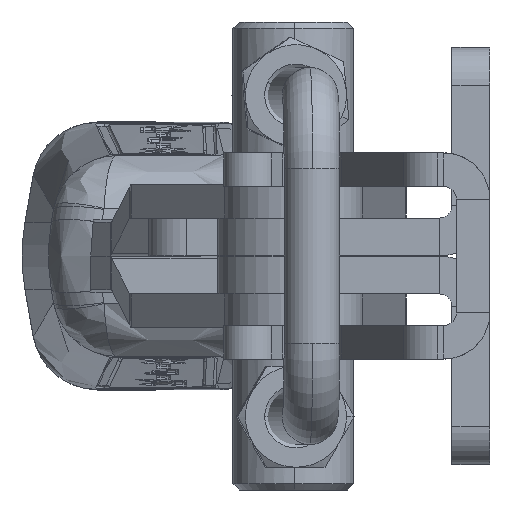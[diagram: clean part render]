
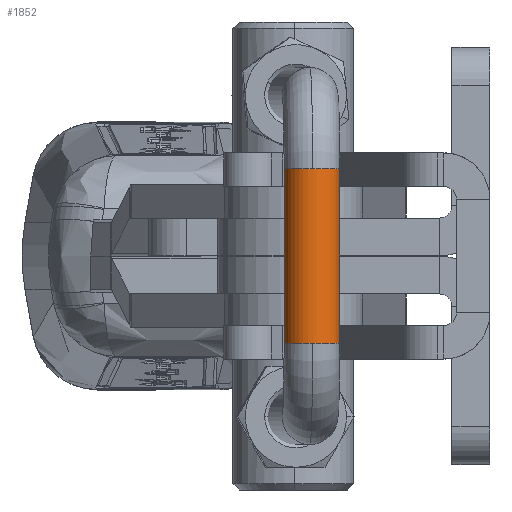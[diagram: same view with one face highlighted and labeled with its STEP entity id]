
A CAD part, left-side view. The second image highlights one B-rep face of the part: STEP entity #1852.
In plain terms, the highlighted cylindrical face has radius 2.2 mm (diameter 4.4 mm), a partial arc.
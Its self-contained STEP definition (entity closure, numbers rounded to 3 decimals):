
#716 = EDGE_LOOP ( 'NONE', ( #1700, #27143, #27450, #27484, #1315, #15250 ) ) ;
#740 = DIRECTION ( 'NONE',  ( 1., 0., 0. ) ) ;
#948 = EDGE_CURVE ( 'NONE', #25491, #32428, #11338, .T. ) ;
#1315 = ORIENTED_EDGE ( 'NONE', *, *, #27461, .F. ) ;
#1664 = VERTEX_POINT ( 'NONE', #6677 ) ;
#1700 = ORIENTED_EDGE ( 'NONE', *, *, #32299, .T. ) ;
#1852 = ADVANCED_FACE ( 'NONE', ( #23243 ), #8727, .T. ) ;
#2375 = EDGE_CURVE ( 'NONE', #23363, #1664, #21979, .T. ) ;
#2403 = DIRECTION ( 'NONE',  ( 0., 0., 1. ) ) ;
#3479 = CARTESIAN_POINT ( 'NONE',  ( -6.9, 67.8, 2.2 ) ) ;
#4817 = VECTOR ( 'NONE', #740, 1000. ) ;
#5361 = DIRECTION ( 'NONE',  ( 1., 0., 0. ) ) ;
#6677 = CARTESIAN_POINT ( 'NONE',  ( 6.9, 67.8, -2.2 ) ) ;
#7039 = CARTESIAN_POINT ( 'NONE',  ( -6.9, 70., 0. ) ) ;
#8727 = CYLINDRICAL_SURFACE ( 'NONE', #9442, 2.2 ) ;
#9442 = AXIS2_PLACEMENT_3D ( 'NONE', #13367, #16034, #21622 ) ;
#10149 = VERTEX_POINT ( 'NONE', #7039 ) ;
#11338 = CIRCLE ( 'NONE', #24998, 2.2 ) ;
#11936 = CARTESIAN_POINT ( 'NONE',  ( -6.9, 67.8, 2.2 ) ) ;
#12092 = AXIS2_PLACEMENT_3D ( 'NONE', #21713, #5361, #24445 ) ;
#12518 = DIRECTION ( 'NONE',  ( 1., 0., 0. ) ) ;
#13367 = CARTESIAN_POINT ( 'NONE',  ( -6.9, 67.8, 0. ) ) ;
#15250 = ORIENTED_EDGE ( 'NONE', *, *, #2375, .F. ) ;
#15787 = CARTESIAN_POINT ( 'NONE',  ( 6.9, 67.8, 0. ) ) ;
#16011 = CARTESIAN_POINT ( 'NONE',  ( 6.9, 67.8, 2.2 ) ) ;
#16034 = DIRECTION ( 'NONE',  ( 1., 0., 0. ) ) ;
#16483 = CARTESIAN_POINT ( 'NONE',  ( 6.9, 70., 0. ) ) ;
#18530 = DIRECTION ( 'NONE',  ( 0., 0., 1. ) ) ;
#18749 = DIRECTION ( 'NONE',  ( 1., 0., 0. ) ) ;
#19175 = DIRECTION ( 'NONE',  ( 1., 0., 0. ) ) ;
#19351 = LINE ( 'NONE', #3479, #4817 ) ;
#19848 = VERTEX_POINT ( 'NONE', #11936 ) ;
#20080 = CIRCLE ( 'NONE', #33632, 2.2 ) ;
#20933 = AXIS2_PLACEMENT_3D ( 'NONE', #35056, #18749, #2403 ) ;
#21622 = DIRECTION ( 'NONE',  ( 0., 0., -1. ) ) ;
#21713 = CARTESIAN_POINT ( 'NONE',  ( -6.9, 67.8, 0. ) ) ;
#21979 = LINE ( 'NONE', #30066, #28381 ) ;
#22581 = CARTESIAN_POINT ( 'NONE',  ( -6.9, 67.8, -2.2 ) ) ;
#23243 = FACE_OUTER_BOUND ( 'NONE', #716, .T. ) ;
#23363 = VERTEX_POINT ( 'NONE', #22581 ) ;
#24369 = CIRCLE ( 'NONE', #20933, 2.2 ) ;
#24445 = DIRECTION ( 'NONE',  ( 0., 0., 1. ) ) ;
#24998 = AXIS2_PLACEMENT_3D ( 'NONE', #15787, #34842, #18530 ) ;
#25491 = VERTEX_POINT ( 'NONE', #16483 ) ;
#26139 = CIRCLE ( 'NONE', #12092, 2.2 ) ;
#27143 = ORIENTED_EDGE ( 'NONE', *, *, #30497, .T. ) ;
#27450 = ORIENTED_EDGE ( 'NONE', *, *, #30091, .T. ) ;
#27461 = EDGE_CURVE ( 'NONE', #1664, #25491, #24369, .T. ) ;
#27484 = ORIENTED_EDGE ( 'NONE', *, *, #948, .F. ) ;
#28381 = VECTOR ( 'NONE', #19175, 1000. ) ;
#28897 = CARTESIAN_POINT ( 'NONE',  ( -6.9, 67.8, 0. ) ) ;
#30066 = CARTESIAN_POINT ( 'NONE',  ( -6.9, 67.8, -2.2 ) ) ;
#30091 = EDGE_CURVE ( 'NONE', #19848, #32428, #19351, .T. ) ;
#30497 = EDGE_CURVE ( 'NONE', #10149, #19848, #26139, .T. ) ;
#31628 = DIRECTION ( 'NONE',  ( 0., 0., 1. ) ) ;
#32299 = EDGE_CURVE ( 'NONE', #23363, #10149, #20080, .T. ) ;
#32428 = VERTEX_POINT ( 'NONE', #16011 ) ;
#33632 = AXIS2_PLACEMENT_3D ( 'NONE', #28897, #12518, #31628 ) ;
#34842 = DIRECTION ( 'NONE',  ( 1., 0., 0. ) ) ;
#35056 = CARTESIAN_POINT ( 'NONE',  ( 6.9, 67.8, 0. ) ) ;
